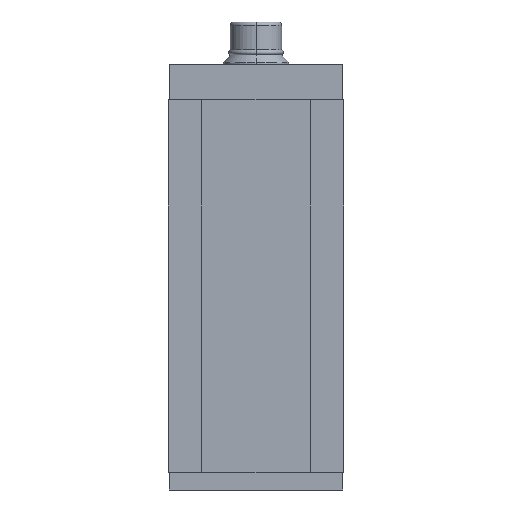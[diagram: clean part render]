
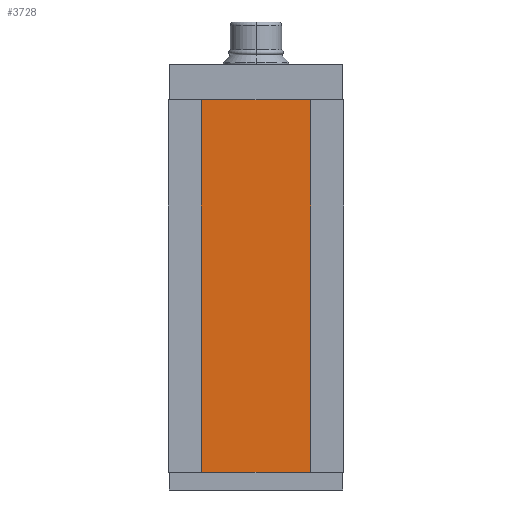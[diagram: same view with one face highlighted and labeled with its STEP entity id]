
A CAD part, front view. The second image highlights one B-rep face of the part: STEP entity #3728.
In plain terms, the highlighted planar face has unit normal (0, -1, 0).
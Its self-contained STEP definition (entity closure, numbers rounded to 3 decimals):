
#79 = VERTEX_POINT ( 'NONE', #1745 ) ;
#101 = EDGE_CURVE ( 'NONE', #79, #652, #1844, .T. ) ;
#652 = VERTEX_POINT ( 'NONE', #4738 ) ;
#1151 = VERTEX_POINT ( 'NONE', #2164 ) ;
#1369 = ORIENTED_EDGE ( 'NONE', *, *, #101, .T. ) ;
#1424 = EDGE_CURVE ( 'NONE', #79, #5310, #3999, .T. ) ;
#1459 = ORIENTED_EDGE ( 'NONE', *, *, #1424, .F. ) ;
#1745 = CARTESIAN_POINT ( 'NONE',  ( -26.155, 0., 85. ) ) ;
#1844 = LINE ( 'NONE', #1845, #1847 ) ;
#1845 = CARTESIAN_POINT ( 'NONE',  ( -26.155, 0., 85. ) ) ;
#1847 = VECTOR ( 'NONE', #1848, 1000. ) ;
#1848 = DIRECTION ( 'NONE',  ( 0., 0., -1. ) ) ;
#1940 = ORIENTED_EDGE ( 'NONE', *, *, #4623, .F. ) ;
#2164 = CARTESIAN_POINT ( 'NONE',  ( 26.155, 0., -85. ) ) ;
#2536 = FACE_OUTER_BOUND ( 'NONE', #3487, .T. ) ;
#2537 = PLANE ( 'NONE',  #2538 ) ;
#2538 = AXIS2_PLACEMENT_3D ( 'NONE', #2539, #2540, #2541 ) ;
#2539 = CARTESIAN_POINT ( 'NONE',  ( -26.155, 0., 85. ) ) ;
#2540 = DIRECTION ( 'NONE',  ( 0., 1., 0. ) ) ;
#2541 = DIRECTION ( 'NONE',  ( 0., 0., 1. ) ) ;
#2597 = EDGE_CURVE ( 'NONE', #652, #1151, #4557, .T. ) ;
#2954 = ORIENTED_EDGE ( 'NONE', *, *, #2597, .T. ) ;
#3193 = LINE ( 'NONE', #3194, #3195 ) ;
#3194 = CARTESIAN_POINT ( 'NONE',  ( 26.155, 0., 85. ) ) ;
#3195 = VECTOR ( 'NONE', #3196, 1000. ) ;
#3196 = DIRECTION ( 'NONE',  ( 0., 0., -1. ) ) ;
#3487 = EDGE_LOOP ( 'NONE', ( #2954, #1940, #1459, #1369 ) ) ;
#3728 = ADVANCED_FACE ( 'NONE', ( #2536 ), #2537, .F. ) ;
#3828 = CARTESIAN_POINT ( 'NONE',  ( 26.155, 0., 85. ) ) ;
#3999 = LINE ( 'NONE', #4000, #4001 ) ;
#4000 = CARTESIAN_POINT ( 'NONE',  ( -26.155, 0., 85. ) ) ;
#4001 = VECTOR ( 'NONE', #4002, 1000. ) ;
#4002 = DIRECTION ( 'NONE',  ( 1., 0., 0. ) ) ;
#4557 = LINE ( 'NONE', #4558, #4559 ) ;
#4558 = CARTESIAN_POINT ( 'NONE',  ( -26.155, 0., -85. ) ) ;
#4559 = VECTOR ( 'NONE', #4560, 1000. ) ;
#4560 = DIRECTION ( 'NONE',  ( 1., 0., 0. ) ) ;
#4623 = EDGE_CURVE ( 'NONE', #5310, #1151, #3193, .T. ) ;
#4738 = CARTESIAN_POINT ( 'NONE',  ( -26.155, 0., -85. ) ) ;
#5310 = VERTEX_POINT ( 'NONE', #3828 ) ;
